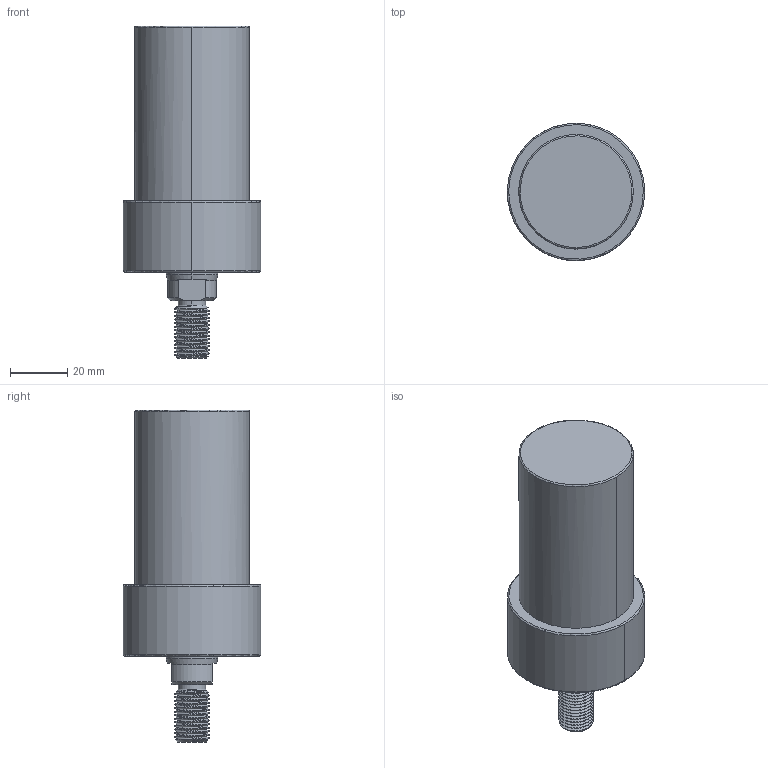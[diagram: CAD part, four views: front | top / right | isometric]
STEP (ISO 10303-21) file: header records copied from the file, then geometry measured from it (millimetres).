
FILE_DESCRIPTION((' '),'2;1');
FILE_NAME( 'TLLU-040GT-050.STEP.stp', '2025-10-24T16:37:14', (' '), ('--- Datakit www.datakit.com---'), ' Datakit CrossCadWare V2024.1 Dec 21 2023', 'Mastercam 2025', ' ');
FILE_SCHEMA(('AUTOMOTIVE_DESIGN { 1 0 10303 214 1 1 1 1 }'));
Length unit declared in the file: millimetre
Products named in the file (1): TLLU-040GT-050
Bounding box: 47.99 x 48 x 116 mm (x, y, z)
Volume: 125030.7 mm3; surface area: 17460.3 mm2
Topology: 1 solids, 1 shells, 94 faces, 335 edges, 244 vertices
Faces by surface type: cylinder 49, cone 25, plane 12, torus 6, bspline 2
Entity records: 9320 total; most frequent: CARTESIAN_POINT 6554, ORIENTED_EDGE 654, DIRECTION 504, EDGE_CURVE 327, VERTEX_POINT 244, AXIS2_PLACEMENT_3D 212, B_SPLINE_CURVE_WITH_KNOTS 128, CIRCLE 119
